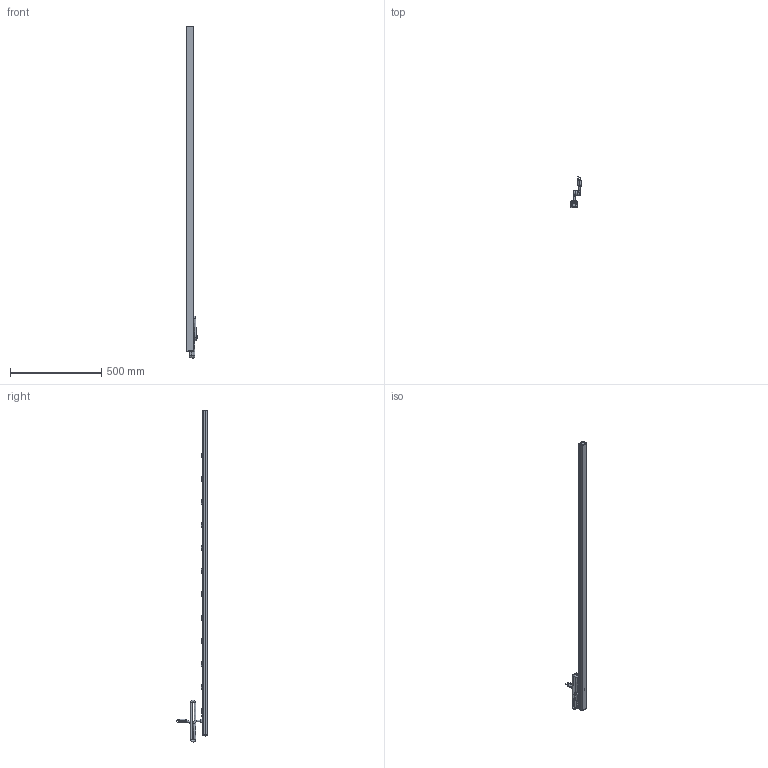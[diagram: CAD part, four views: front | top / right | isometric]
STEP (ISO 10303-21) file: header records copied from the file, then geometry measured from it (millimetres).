
FILE_DESCRIPTION((''),'2;1');
FILE_NAME('E:\Dutton\Manufacturing\drawings\Updated 2009\Vertical Rack Mount Strips\1587 Series\STEP''s\1587H11A1.stp','2010-01-19T14:21:33',('tfoster'),(''),'Autodesk Inventor 2010','Autodesk Inventor 2010','');
FILE_SCHEMA(('AUTOMOTIVE_DESIGN { 1 0 10303 214 1 1 1 1 }'));
Length unit declared in the file: inch
Products named in the file (14): 1587H11A1; 1587H11 top; 1587 bottom; End Cap; End Cap w breaker; Reset Switch; #6 - 0.375 Type A screw; Cored 2; toothwasher; round head 1-way 8-32 x 0.5 screw; Power Switch Assembly; Power Switch; Power Switch pt; Receptacle
Assembly tree (26 placements, depth 3):
  1587H11A1
    1587H11 top
    1587 bottom
    End Cap
    End Cap w breaker
    Reset Switch
    #6 - 0.375 Type A screw  x4
    Cored 2
    toothwasher
    round head 1-way 8-32 x 0.5 screw
    Power Switch Assembly
      Power Switch
      Power Switch pt
    Receptacle  x11
Bounding box: 60.19 x 170.82 x 1821.58 mm (x, y, z)
Volume: 654950.4 mm3; surface area: 665544.1 mm2
Topology: 25 solids, 25 shells, 1282 faces, 3628 edges, 2383 vertices
Faces by surface type: plane 773, cylinder 277, bspline 139, sphere 50, cone 28, torus 15
Full cylindrical faces by diameter (mm): 1 x2, 1.803 x3, 1.905 x2, 3 x2, 3.175 x12, 4.3 x1, 4.775 x1, 4.826 x1, 7.849 x1, 9.5 x5, 11 x1, 15.621 x1, 19.05 x2
Entity records: 27812 total; most frequent: CARTESIAN_POINT 9809, ORIENTED_EDGE 3890, DIRECTION 3230, EDGE_CURVE 1945, VERTEX_POINT 1370, VECTOR 1142, LINE 1142, AXIS2_PLACEMENT_3D 1044
